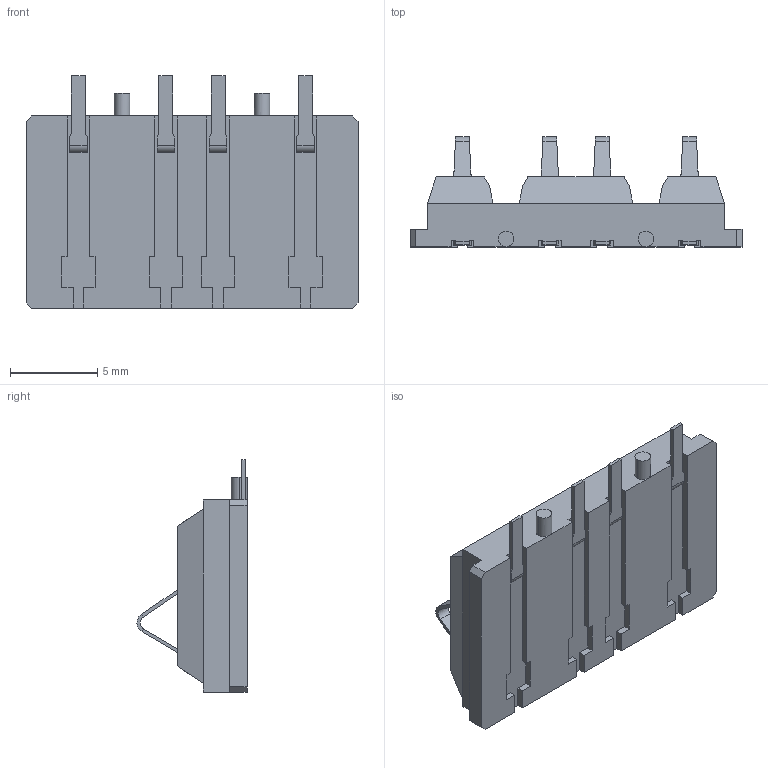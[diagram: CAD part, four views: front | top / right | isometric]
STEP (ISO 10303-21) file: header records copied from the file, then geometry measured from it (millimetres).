
FILE_DESCRIPTION(('Creo Elements/Direct Modeling STEP Export'),'2;1');
FILE_NAME('P39574_GD02-04-1F.stp','2023-02-27T11:28:45',(''),(''),'Creo Elements/Direct Modeling STEP processor for AP214 (Solid Model)','Creo Elements/Direct Modeling 20.4A 18-Oct-2021 (C) Parametric Technology GmbH','');
FILE_SCHEMA(('AUTOMOTIVE_DESIGN { 1 0 10303 214 1 1 1 1 }'));
Length unit declared in the file: millimetre
Products named in the file (2): GD02-04-1F
Assembly tree (1 placements, depth 2):
  GD02-04-1F
    GD02-04-1F
Bounding box: 19 x 6.3 x 13.3 mm (x, y, z)
Volume: 647.4 mm3; surface area: 761 mm2
Topology: 1 solids, 1 shells, 223 faces, 588 edges, 372 vertices
Faces by surface type: plane 195, cylinder 28
Entity records: 6670 total; most frequent: ORIENTED_EDGE 1176, CARTESIAN_POINT 1160, DIRECTION 1060, EDGE_CURVE 588, VECTOR 516, LINE 516, VERTEX_POINT 372, AXIS2_PLACEMENT_3D 272
